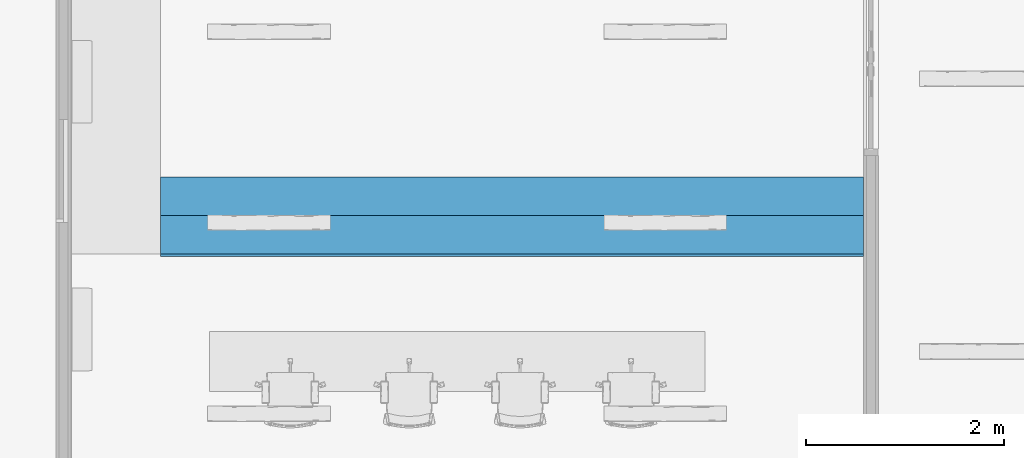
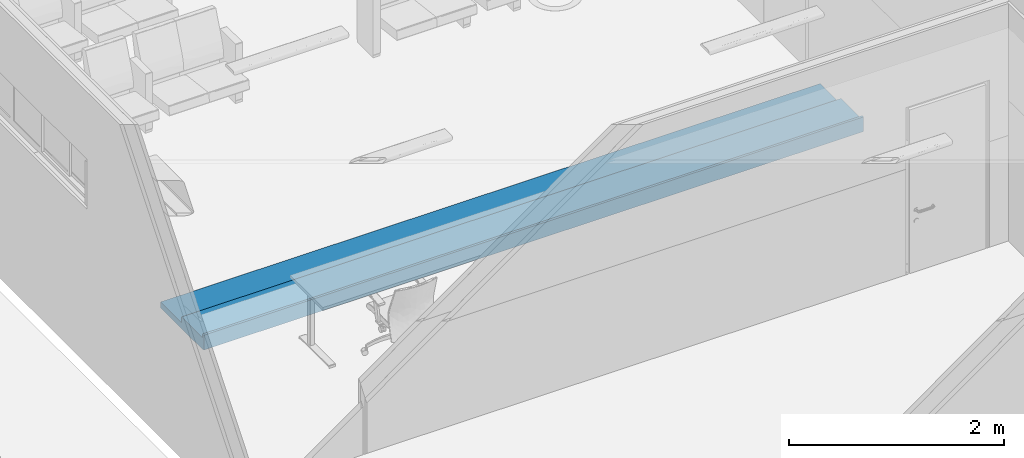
# One storey, part 48 of 155: 1 stair flight, 1 element without a shape of its own.
"""IFC2X3 building model written with IfcOpenShell, lengths in metres."""

from ifc_helpers import new_model, entity, si_unit, converted_unit, derived_unit, direction, frame, origin, place, context, subcontext, project, spatial, faceted_brep, material, material_list, element, aggregate, save


model = new_model("IFC2X3")

# Units and contexts
model_context = context("Model", 3, precision=1e-05, world=origin(), true_north=direction((6.12303176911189e-17, 1.0)))
body_context = subcontext(model_context, "Body", "Model", "MODEL_VIEW")
ifc_project = project(units=[si_unit("LENGTHUNIT", "METRE"), si_unit("AREAUNIT", "SQUARE_METRE"), si_unit("VOLUMEUNIT", "CUBIC_METRE"), converted_unit("PLANEANGLEUNIT", "DEGREE", entity("IfcRatioMeasure", 0.0174532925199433), si_unit("PLANEANGLEUNIT", "RADIAN"), dimensions=[0, 0, 0, 0, 0, 0, 0]), si_unit("MASSUNIT", "GRAM", prefix="KILO"), derived_unit("MASSDENSITYUNIT", [(si_unit("MASSUNIT", "GRAM", prefix="KILO"), 1), (si_unit("LENGTHUNIT", "METRE"), -3)]), si_unit("TIMEUNIT", "SECOND"), si_unit("FREQUENCYUNIT", "HERTZ"), si_unit("THERMODYNAMICTEMPERATUREUNIT", "DEGREE_CELSIUS"), derived_unit("THERMALTRANSMITTANCEUNIT", [(si_unit("MASSUNIT", "GRAM", prefix="KILO"), 1), (si_unit("THERMODYNAMICTEMPERATUREUNIT", "KELVIN"), -1), (si_unit("TIMEUNIT", "SECOND"), -3)]), derived_unit("VOLUMETRICFLOWRATEUNIT", [(si_unit("LENGTHUNIT", "METRE"), 3), (si_unit("TIMEUNIT", "SECOND"), -1)]), si_unit("ELECTRICCURRENTUNIT", "AMPERE"), si_unit("ELECTRICVOLTAGEUNIT", "VOLT"), si_unit("POWERUNIT", "WATT"), si_unit("FORCEUNIT", "NEWTON", prefix="KILO"), si_unit("ILLUMINANCEUNIT", "LUX"), si_unit("LUMINOUSFLUXUNIT", "LUMEN"), si_unit("LUMINOUSINTENSITYUNIT", "CANDELA"), derived_unit("USERDEFINED", [(si_unit("MASSUNIT", "GRAM", prefix="KILO"), -1), (si_unit("LENGTHUNIT", "METRE"), -2), (si_unit("TIMEUNIT", "SECOND"), 3), (si_unit("LUMINOUSFLUXUNIT", "LUMEN"), 1)]), derived_unit("LINEARVELOCITYUNIT", [(si_unit("LENGTHUNIT", "METRE"), 1), (si_unit("TIMEUNIT", "SECOND"), -1)]), si_unit("PRESSUREUNIT", "PASCAL"), derived_unit("USERDEFINED", [(si_unit("LENGTHUNIT", "METRE"), -2), (si_unit("MASSUNIT", "GRAM", prefix="KILO"), 1), (si_unit("TIMEUNIT", "SECOND"), -2)])], contexts=[model_context])

# Site, building, storey
site_placement = place(None, frame((26.9889013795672, -17.5624287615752, 0.0)))
site = spatial("IfcSite", under=ifc_project, at=site_placement, Name="Default", CompositionType="ELEMENT")
building_placement = place(site_placement, origin())
building = spatial("IfcBuilding", under=site, at=building_placement, Name="C. C. L. Monsenhor Antônio Sampaio", CompositionType="ELEMENT")
storey_placement = place(building_placement, frame((0.0, 0.0, 1.19999999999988)))
storey = spatial("IfcBuildingStorey", under=building, at=storey_placement, Name="Nível 1.2", CompositionType="ELEMENT", Elevation=1.19999999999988)

# Stair, stair flight
stair_placement = place(storey_placement, origin())
stair = element("IfcStair", 1, at=stair_placement, inside=storey, Name="Escada moldada no local:Escada", ObjectType="Escada moldada no local:Escada monolítica", ShapeType="NOTDEFINED")
ifc_material_1 = material(Name=".Pintura branca")
ifc_material_2 = material(Name=".Concreto")
ifc_material_list = material_list([ifc_material_1, ifc_material_2])
stair_flight_placement = place(stair_placement, frame((-13.08555229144, -21.0547330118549, 0.0)))
stair_flight = element("IfcStairFlight", 2, at=stair_flight_placement, material=ifc_material_list, Name="Escada moldada no local:Escada:3973089 Run 1", ObjectType="Escada moldada no local:Escada monolítica", NumberOfRiser=3, NumberOfTreads=2, RiserHeight=0.218722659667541, TreadLength=1.27952755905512, context=body_context, shape_type="Brep", body=[
    faceted_brep([(0.0, 0.805000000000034, 0.0416666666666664), (0.0, 0.805000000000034, 0.0), (0.0, 0.780000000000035, 0.0), (0.0, 0.780000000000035, 0.0416666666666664), (7.09500000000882, 0.804999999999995, 0.0416666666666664), (7.09500000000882, 0.779999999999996, 0.0416666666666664), (7.09500000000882, 0.779999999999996, 0.0), (7.09500000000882, 0.804999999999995, 0.0)], [[[0, 1, 2, 3]], [[4, 5, 6, 7]], [[1, 0, 4, 7]], [[2, 1, 7, 6]], [[3, 2, 6, 5]], [[0, 3, 5, 4]]]),
    faceted_brep([(7.09500000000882, 0.390000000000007, 0.0666666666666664), (7.09500000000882, 0.80499999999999, 0.0666666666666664), (0.0, 0.805000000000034, 0.0666666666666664), (0.0, 0.390000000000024, 0.0666666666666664), (7.09500000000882, 0.390000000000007, 0.0416666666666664), (0.0, 0.390000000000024, 0.0416666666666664), (0.0, 0.805000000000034, 0.0416666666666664), (7.09500000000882, 0.80499999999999, 0.0416666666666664)], [[[0, 1, 2, 3]], [[4, 5, 6, 7]], [[1, 0, 4, 7]], [[2, 1, 7, 6]], [[3, 2, 6, 5]], [[0, 3, 5, 4]]]),
    faceted_brep([(0.0, 0.415000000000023, 0.108333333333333), (0.0, 0.415000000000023, 0.0666666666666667), (0.0, 0.390000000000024, 0.0666666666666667), (0.0, 0.390000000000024, 0.108333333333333), (7.09500000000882, 0.415000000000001, 0.108333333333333), (7.09500000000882, 0.390000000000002, 0.108333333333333), (7.09500000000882, 0.390000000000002, 0.0666666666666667), (7.09500000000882, 0.415000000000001, 0.0666666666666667)], [[[0, 1, 2, 3]], [[4, 5, 6, 7]], [[1, 0, 4, 7]], [[2, 1, 7, 6]], [[3, 2, 6, 5]], [[0, 3, 5, 4]]]),
    faceted_brep([(0.0, 0.0250000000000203, 0.174999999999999), (0.0, 0.0250000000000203, 0.133333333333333), (0.0, 0.0, 0.133333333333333), (0.0, 0.0, 0.174999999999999), (7.09500000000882, 0.0249999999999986, 0.174999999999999), (7.09500000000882, 0.0, 0.174999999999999), (7.09500000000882, 0.0, 0.133333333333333), (7.09500000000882, 0.0249999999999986, 0.133333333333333)], [[[0, 1, 2, 3]], [[4, 5, 6, 7]], [[1, 0, 4, 7]], [[2, 1, 7, 6]], [[3, 2, 6, 5]], [[0, 3, 5, 4]]]),
    faceted_brep([(7.09500000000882, 0.0, 0.133333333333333), (7.09500000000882, 0.415000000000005, 0.133333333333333), (0.0, 0.415000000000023, 0.133333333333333), (0.0, 0.0, 0.133333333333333), (7.09500000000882, 0.0, 0.108333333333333), (0.0, 0.0, 0.108333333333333), (0.0, 0.415000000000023, 0.108333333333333), (7.09500000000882, 0.415000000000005, 0.108333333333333)], [[[0, 1, 2, 3]], [[4, 5, 6, 7]], [[1, 0, 4, 7]], [[2, 1, 7, 6]], [[3, 2, 6, 5]], [[0, 3, 5, 4]]]),
    faceted_brep([(7.09500000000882, 0.390000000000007, 0.0416666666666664), (7.09500000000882, 0.779999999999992, 0.0416666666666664), (0.0, 0.780000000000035, 0.0416666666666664), (0.0, 0.390000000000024, 0.0416666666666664), (7.09500000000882, 0.390000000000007, 0.0), (7.09500000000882, 0.779999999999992, 0.0), (0.0, 0.780000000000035, 0.0), (0.0, 0.390000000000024, 0.0), (7.09500000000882, 0.0, 0.108333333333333), (7.09500000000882, 0.389999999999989, 0.108333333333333), (0.0, 0.390000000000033, 0.108333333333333), (0.0, 0.0, 0.108333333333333), (7.09500000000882, 0.0, 0.00688282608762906), (7.09500000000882, 0.0402645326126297, 0.0), (0.0, 0.0402645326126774, 0.0), (0.0, 0.0, 0.00688282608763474)], [[[0, 1, 2, 3]], [[1, 0, 4, 5]], [[2, 1, 5, 6]], [[3, 2, 6, 7]], [[8, 9, 10, 11]], [[4, 0, 9, 8, 12, 13]], [[0, 3, 10, 9]], [[3, 7, 14, 15, 11, 10]], [[8, 11, 15, 12]], [[5, 4, 13, 14, 7, 6]], [[14, 13, 12, 15]]]),
])
aggregate(stair, [stair_flight])

save(model, "model.ifc")
